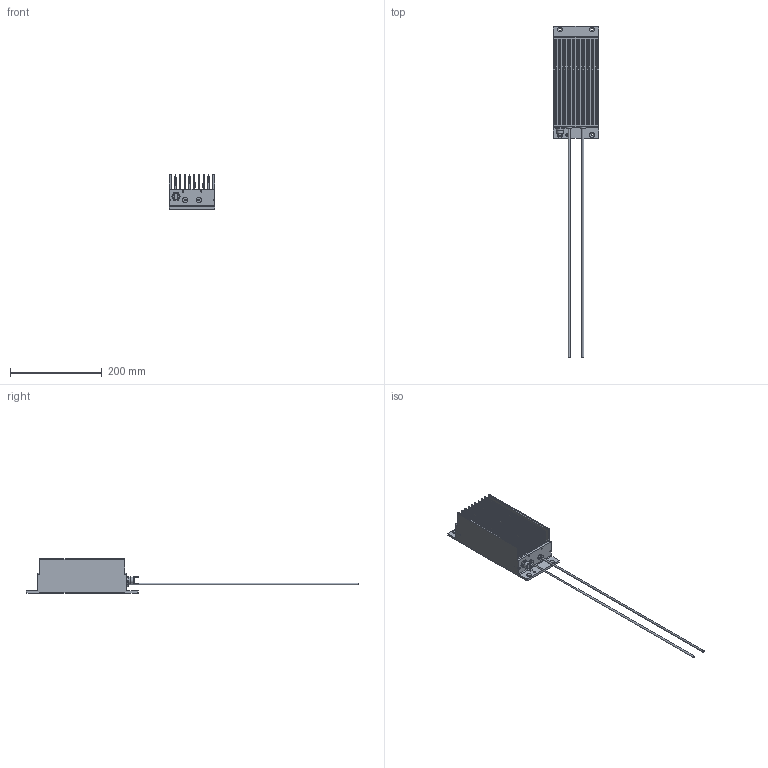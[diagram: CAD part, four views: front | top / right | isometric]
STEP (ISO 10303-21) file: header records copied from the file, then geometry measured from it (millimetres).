
FILE_DESCRIPTION(/* description */ (''),/* implementation_level */ '2;1');
FILE_NAME(/* name */ 'C:\_Vault\Dati\CATALOGO\RDF\RDFT750.stp',/* time_stamp */ '2014-03-25T14:05:26+01:00',/* author */ ('stefano'),/* organization */ (''),/* preprocessor_version */ 'ST-DEVELOPER v15.2',/* originating_system */ 'Autodesk Inventor 2014',/* authorisation */ '');
FILE_SCHEMA (('AUTOMOTIVE_DESIGN { 1 0 10303 214 3 1 1 }'));
Length unit declared in the file: millimetre
Products named in the file (1): RDFT750
Bounding box: 100 x 724 x 75 mm (x, y, z)
Volume: 557381.5 mm3; surface area: 277653.5 mm2
Topology: 3 solids, 3 shells, 1267 faces, 3708 edges, 2472 vertices
Faces by surface type: plane 1165, cylinder 89, cone 13
Full cylindrical faces by diameter (mm): 1.8 x2, 2.65 x8, 3.2 x8, 4 x3, 4.917 x1, 5.5 x4, 12 x2, 12.5 x2, 13.6 x1, 14.1 x1, 15.6 x1
Entity records: 42163 total; most frequent: CARTESIAN_POINT 7350, ORIENTED_EDGE 7272, DIRECTION 6358, EDGE_CURVE 3636, LINE 3450, VECTOR 3450, VERTEX_POINT 2446, AXIS2_PLACEMENT_3D 1454
